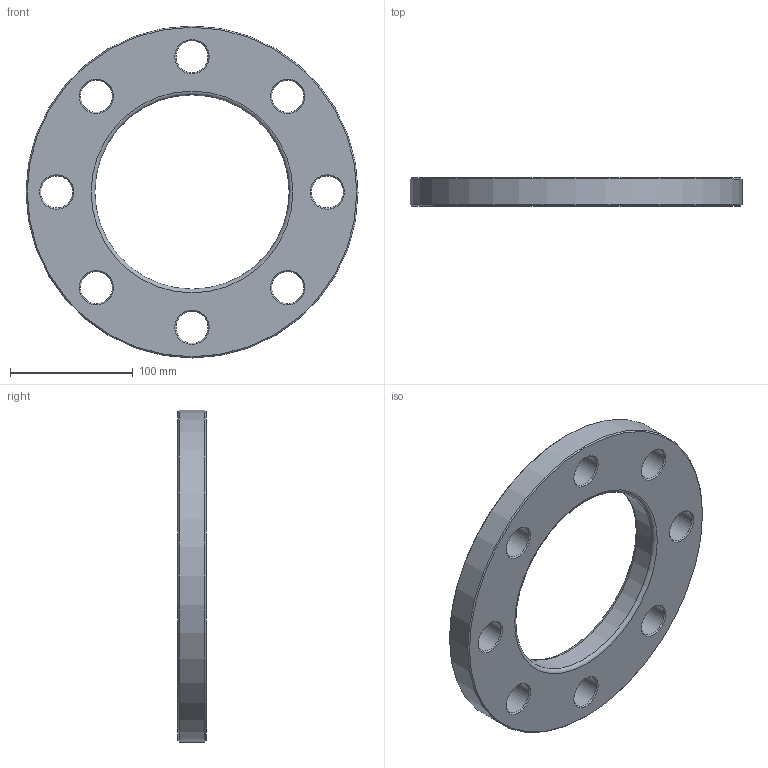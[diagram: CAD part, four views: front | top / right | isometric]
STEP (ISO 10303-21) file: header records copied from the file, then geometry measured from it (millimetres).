
FILE_DESCRIPTION(/* description */ ('Unknown'),/* implementation_level */ '2;1');
FILE_NAME(/* name */ 'FZ140L',/* time_stamp */ '2021-03-15T15:24:26+01:00',/* author */ ('Unknown'),/* organization */ ('Unknown'),/* preprocessor_version */ 'ST-DEVELOPER v16.7',/* originating_system */ 'Solid Edge',/* authorisation */ 'Unknown');
FILE_SCHEMA (('AUTOMOTIVE_DESIGN {1 0 10303 214 3 1 1}'));
Length unit declared in the file: millimetre
Products named in the file (1): FZ140L
Bounding box: 270 x 23 x 270 mm (x, y, z)
Volume: 764782.5 mm3; surface area: 109746.7 mm2
Topology: 1 solids, 1 shells, 32 faces, 94 edges, 64 vertices
Faces by surface type: cone 18, cylinder 10, plane 2, torus 2
Full cylindrical faces by diameter (mm): 26 x8, 158 x1, 270 x1
Entity records: 790 total; most frequent: DIRECTION 146, CARTESIAN_POINT 113, ORIENTED_EDGE 80, EDGE_LOOP 80, FACE_BOUND 80, AXIS2_PLACEMENT_3D 73, EDGE_CURVE 40, VERTEX_POINT 40
